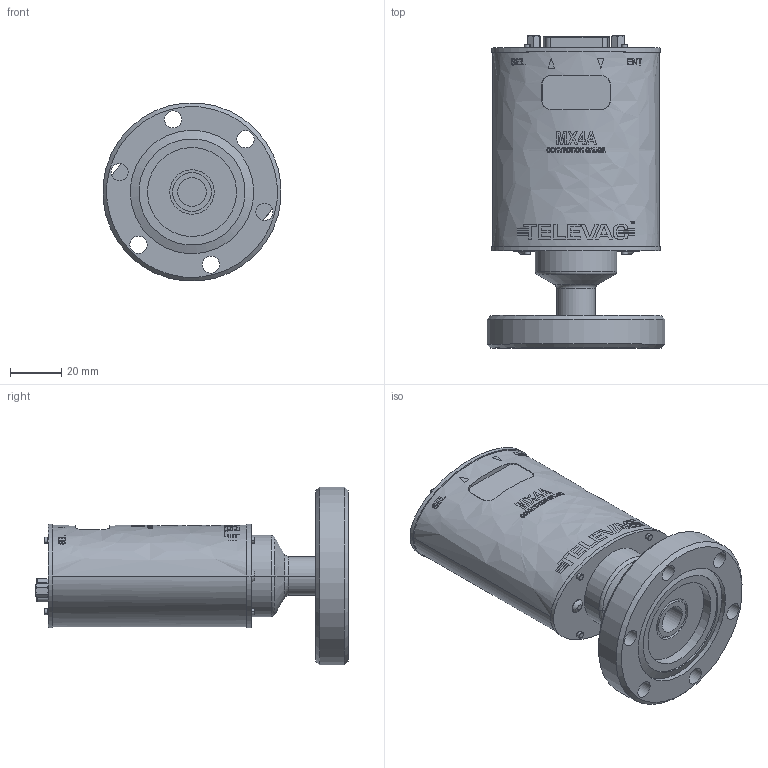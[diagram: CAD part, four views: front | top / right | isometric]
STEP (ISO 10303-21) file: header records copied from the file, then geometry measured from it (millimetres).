
FILE_DESCRIPTION (( 'STEP AP214' ), '1' );
FILE_NAME ('2-8930-152.STEP', '2023-11-01T16:52:44', ( '' ), ( '' ), 'SwSTEP 2.0', 'SolidWorks 2022', '' );
FILE_SCHEMA (( 'AUTOMOTIVE_DESIGN' ));
Length unit declared in the file: inch
Products named in the file (1): 2-8930-152
Bounding box: 69.62 x 122.1 x 69.62 mm (x, y, z)
Volume: 194462.9 mm3; surface area: 43655.7 mm2
Topology: 6 solids, 6 shells, 722 faces, 2133 edges, 1559 vertices
Faces by surface type: cylinder 265, plane 230, bspline 92, cone 73, torus 58, sphere 4
Full cylindrical faces by diameter (mm): 1.778 x4, 2.261 x2, 2.438 x4, 6.731 x6, 17.348 x1, 34.798 x1, 41.529 x1, 48.26 x1, 69.85 x1
Entity records: 40729 total; most frequent: CARTESIAN_POINT 13847, ORIENTED_EDGE 4214, DIRECTION 3042, EDGE_CURVE 2107, VERTEX_POINT 1558, AXIS2_PLACEMENT_3D 1152, EDGE_LOOP 909, FACE_OUTER_BOUND 744
